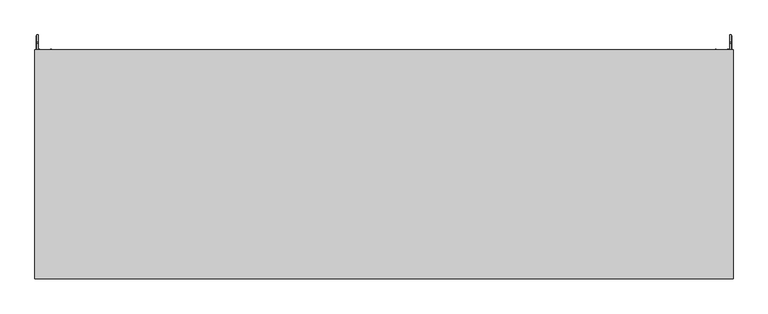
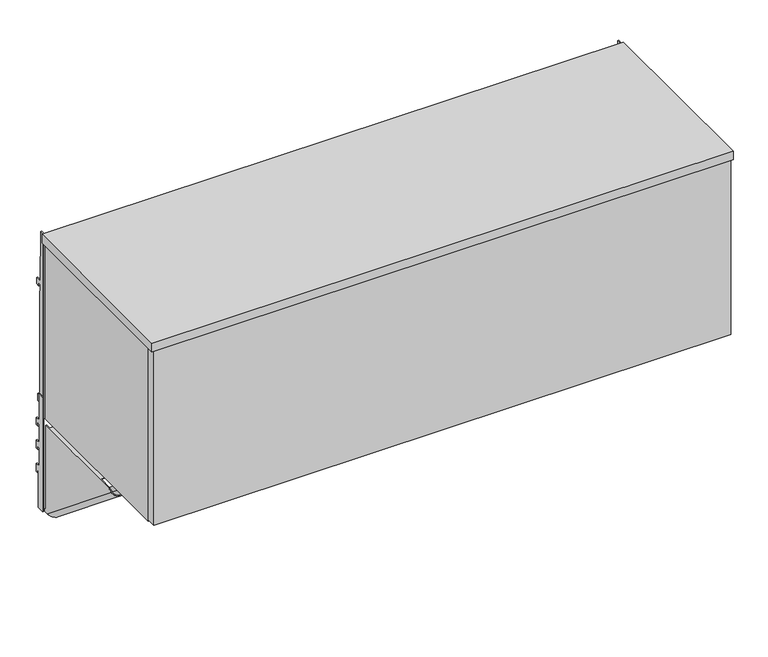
"""IFC4 building model written with IfcOpenShell, lengths in millimetres: furniture geometry, Steelcase - Universal Storage - In the Case Bin - Flat Front : For Montage - 48W."""

from ifc_helpers import new_model, si_unit, point, frame, frame_2d, origin, place, context, project, spatial, polyline, circle_curve, ellipse_curve, trimmed, segment, composite_curve, outline, extrude, faceted_brep, source, transform, mapped, element, save
from ifc_brep_helpers import plane_surface, cylinder_surface, revolved_surface, advanced_brep


def furniture_7c1b5382(model_context):
    return source(origin(), model_context, "Body", "SolidModel", [
        extrude(outline(polyline([(14.7026351, 1295.4127), (14.7026351, 1236.5862384), (24.9864881, 1236.5862384), (24.9864881, 1220.7113353), (18.8396885, 1220.7113353), (18.8396885, 1227.061311), (14.7756879, 1227.061311), (14.7756879, 1186.6498969), (24.9864881, 1186.6498969), (24.9864881, 1168.3872762), (18.8396885, 1168.3872762), (18.8396885, 1174.7373246), (14.7756879, 1174.7373246), (14.7756879, 1134.3259105), (24.9864881, 1134.3259105), (24.9864881, 1116.0632897), (21.4050888, 1116.0632897), (21.4050888, 1122.4132655), (17.3410881, 1122.4132655), (17.3410881, 1040.9809), (1.1327479, 1040.9809), (1.1327479, 1295.4127), (14.7026351, 1295.4127)])), frame((2.1844, 0.0, 0.0), z_axis=(1.0, 0.0, 0.0), x_axis=(0.0, 1.0, 0.0)), (0.0, 0.0, 1.0), 1.905),
        extrude(outline(polyline([(14.7026351, 1295.4127), (14.7026351, 1236.5862384), (24.9864881, 1236.5862384), (24.9864881, 1220.7113353), (18.8396885, 1220.7113353), (18.8396885, 1227.061311), (14.7756879, 1227.061311), (14.7756879, 1186.6498969), (24.9864881, 1186.6498969), (24.9864881, 1168.3872762), (18.8396885, 1168.3872762), (18.8396885, 1174.7373246), (14.7756879, 1174.7373246), (14.7756879, 1134.3259105), (24.9864881, 1134.3259105), (24.9864881, 1116.0632897), (21.4050888, 1116.0632897), (21.4050888, 1122.4132655), (17.3410881, 1122.4132655), (17.3410881, 1040.9809), (1.1327479, 1040.9809), (1.1327479, 1295.4127), (14.7026351, 1295.4127)])), frame((1215.1106, 0.0, 0.0), z_axis=(1.0, 0.0, 0.0), x_axis=(0.0, 1.0, 0.0)), (0.0, 0.0, 1.0), 1.905),
        advanced_brep(
        [(1190.1424, -230.0833372, 1233.8431), (1190.1424, 1.1327479, 1046.6079738), (1188.0342, 1.1327479, 1046.6079738), (1188.0342, -230.0833372, 1233.8431), (1188.0342, 1.1327479, 1040.9809), (1188.0342, -7.7654502, 1040.9809), (1188.0342, -240.6555763, 1229.5716381), (1211.3006, -7.7654502, 1040.9809), (1211.3006, -240.6555763, 1229.5716381), (1211.3006, 1.1327479, 1040.9809), (1211.3006, 1.1327479, 1046.6079738), (1211.3006, -3.080512, 1050.019805), (1211.3006, -3.080512, 1233.8431), (1211.3006, -230.0833372, 1233.8431), (1209.1924009, 1.1327479, 1046.6079738), (1209.1924009, -3.080512, 1050.019805), (1209.1924009, -7.7654502, 1040.9809), (1209.1924009, -240.6555763, 1229.5716381), (1209.1924009, -230.0833372, 1233.8431), (1209.1924009, -200.311512, 1233.8431), (1209.1924009, -200.311512, 1233.0049163), (1209.1924009, -14.0787123, 1233.0049163), (1209.1924009, -14.0787123, 1233.8431), (1209.1924009, -3.080512, 1233.8431), (1209.1924009, 1.1327479, 1040.9809), (1190.1424, -7.7654502, 1040.9809), (1190.1424, -240.6555763, 1229.5716381), (1190.1424, 1.1327479, 1040.9809), (1180.2617978, -200.311512, 1233.8431), (1180.2617978, -200.311512, 1252.2581016), (1179.4236, -200.311512, 1252.2581016), (1179.4236, -200.311512, 1233.0049163), (1179.4236, -82.5825138, 1252.2581016), (1180.2617978, -82.5825138, 1252.2581016), (1180.2617978, -82.5825138, 1233.8431), (1179.4236, -82.5825138, 1233.8431), (1179.4236, -14.0787123, 1233.8431), (1179.4236, -14.0787123, 1233.0049163)],
        [
            (0, 1),
            (1, 2),
            (2, 3),
            (3, 0),
            (2, 4),
            (4, 5),
            (5, 6),
            (6, 3),
            (5, 7, ellipse_curve(frame((1199.6674, -7.7654502, 1040.9809), z_axis=(0.0, 0.0, 1.0), x_axis=(0.0, -1.0, 0.0)), 18.4853359, 11.6332)),
            (7, 8),
            (8, 6, ellipse_curve(frame((1199.6674, -240.6555763, 1229.5716381), z_axis=(0.0, 0.374606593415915, -0.9271838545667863), x_axis=(0.0, -0.9271838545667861, -0.3746065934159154)), 13.3008659, 11.6332)),
            (7, 9),
            (9, 10),
            (10, 11),
            (11, 12),
            (12, 13),
            (13, 8),
            (10, 14),
            (14, 15),
            (15, 11),
            (16, 17),
            (17, 18),
            (18, 19),
            (19, 20),
            (20, 21),
            (21, 22),
            (22, 23),
            (23, 15),
            (14, 24),
            (24, 16),
            (16, 25, ellipse_curve(frame((1199.6674005, -7.7654502, 1040.9809), z_axis=(0.0, 0.0, -1.0), x_axis=(0.0, 1.0, 0.0)), 15.135374, 9.5250005)),
            (25, 26),
            (26, 17, ellipse_curve(frame((1199.6674005, -240.6555763, 1229.5716381), z_axis=(0.0, -0.374606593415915, 0.9271838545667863), x_axis=(0.0, 0.9271838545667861, 0.3746065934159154)), 10.8904475, 9.5250005)),
            (0, 26),
            (25, 27),
            (27, 1),
            (13, 18),
            (24, 9),
            (4, 27),
            (28, 29),
            (29, 30),
            (30, 31),
            (31, 20),
            (19, 28),
            (32, 33),
            (33, 34),
            (34, 35),
            (35, 32),
            (35, 36),
            (36, 37),
            (37, 31),
            (30, 32),
            (28, 34),
            (33, 29),
            (36, 22),
            (21, 37),
            (12, 23),
        ],
        [
            plane_surface(frame((1190.1424, -241.2702093, 1242.902052), z_axis=(0.0, 0.6293204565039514, 0.7771459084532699), x_axis=(0.0, 0.7771459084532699, -0.6293204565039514))),
            plane_surface(frame((1188.0342, -241.2702093, 1242.902052), z_axis=(-1.0, 0.0, 0.0), x_axis=(0.0, 0.7771459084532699, -0.6293204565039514))),
            cylinder_surface(frame((1199.6674, 5.728998, 1030.0533094), z_axis=(0.0, -0.7771459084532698, 0.6293204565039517), x_axis=(0.0, 0.6293204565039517, 0.7771459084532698)), 11.6332),
            plane_surface(frame((1211.3006, -247.5463438, 1235.1516726), z_axis=(1.0000000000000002, 0.0, 0.0), x_axis=(0.0, 0.7771459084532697, -0.6293204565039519))),
            plane_surface(frame((1211.3006, -241.2702093, 1242.902052), z_axis=(0.0, 0.6293204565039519, 0.7771459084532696), x_axis=(0.0, 0.7771459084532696, -0.6293204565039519))),
            plane_surface(frame((1209.1924009, -241.2702093, 1242.902052), z_axis=(-1.0, 0.0, 0.0), x_axis=(0.0, 0.7771459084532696, -0.6293204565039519))),
            revolved_surface(polyline([(1199.6674005, 7.3699238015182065, 1040.980900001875), (1199.6674005, -238.76446812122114, 1240.2966349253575)]), (1199.6674005, 5.728998, 1030.0533094), (0.0, 0.7771459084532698, -0.6293204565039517)),
            plane_surface(frame((1190.1424, -247.5463438, 1235.1516726), z_axis=(1.0000000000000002, 0.0, 0.0), x_axis=(0.0, 0.7771459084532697, -0.6293204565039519))),
            plane_surface(frame((1219.2, -257.2236519, 1222.8777011), z_axis=(0.0, -0.374606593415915, 0.9271838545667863), x_axis=(-1.0, 0.0, 0.0))),
            plane_surface(frame((1219.2, 1.1327479, 1040.9809), z_axis=(0.0, 0.0, -1.0), x_axis=(-1.0, 0.0, 0.0))),
            plane_surface(frame((1219.2, 1.1327479, 1053.6809), z_axis=(0.0, 1.0, 0.0), x_axis=(-1.0, 0.0, 0.0))),
            plane_surface(frame((1179.4236, -200.311512, 1252.2581016), z_axis=(0.0, -1.0, 0.0), x_axis=(0.0, 0.0, -1.0))),
            plane_surface(frame((1179.4236, -82.5825138, 1252.2581016), z_axis=(0.0, 1.0, 0.0), x_axis=(0.0, 0.0, 1.0))),
            plane_surface(frame((1179.4236, -200.311512, 1252.2581016), z_axis=(-1.0, 0.0, 0.0), x_axis=(0.0, 1.0, 0.0))),
            plane_surface(frame((1180.2617978, -200.311512, 1233.8431), z_axis=(1.0, 0.0, 0.0), x_axis=(0.0, 1.0, 0.0))),
            plane_surface(frame((1180.2617978, -200.311512, 1252.2581016), z_axis=(0.0, 0.0, 1.0), x_axis=(0.0, 1.0, 0.0))),
            plane_surface(frame((1179.4236, -14.0787123, 1233.8431), z_axis=(0.0, 1.0, 0.0), x_axis=(0.0, 0.0, 1.0))),
            plane_surface(frame((1179.4236, -200.311512, 1233.0049163), z_axis=(0.0, 0.0, -1.0), x_axis=(0.0, 1.0, 0.0))),
            plane_surface(frame((1211.3006, -200.311512, 1233.8431), z_axis=(0.0, 0.0, 1.0), x_axis=(0.0, 1.0, 0.0))),
            plane_surface(frame((1211.3006, -3.080512, 1050.019805), z_axis=(0.0, 1.0, 0.0), x_axis=(-1.0, 0.0, 0.0))),
        ],
        [
            (0, [[1, 2, 3, 4]]),
            (1, [[-3, 5, 6, 7, 8]]),
            (2, [[-7, 9, 10, 11]]),
            (3, [[-10, 12, 13, 14, 15, 16, 17]]),
            (4, [[18, 19, 20, -14]]),
            (5, [[21, 22, 23, 24, 25, 26, 27, 28, -19, 29, 30]]),
            (6, [[-21, 31, 32, 33]]),
            (7, [[-1, 34, -32, 35, 36]]),
            (8, [[-4, -8, -11, -17, 37, -22, -33, -34]]),
            (9, [[38, -12, -9, -6, 39, -35, -31, -30]]),
            (10, [[-38, -29, -18, -13]]),
            (10, [[-39, -5, -2, -36]]),
            (11, [[40, 41, 42, 43, -24, 44]]),
            (12, [[45, 46, 47, 48]]),
            (13, [[-48, 49, 50, 51, -42, 52]]),
            (14, [[-40, 53, -46, 54]]),
            (15, [[-41, -54, -45, -52]]),
            (16, [[-50, 55, -26, 56]]),
            (17, [[-51, -56, -25, -43]]),
            (18, [[57, -27, -55, -49, -47, -53, -44, -23, -37, -16]]),
            (19, [[-15, -20, -28, -57]]),
        ],
    ),
        advanced_brep(
        [(8.1026, -3.080512, 1050.019805), (8.1026, -3.080512, 1233.8431), (8.1026, -14.0787123, 1233.8431), (8.1026, -14.0787123, 1233.0049163), (8.1026, -200.311512, 1233.0049163), (8.1026, -200.311512, 1233.8431), (8.1026, -230.0833372, 1233.8431), (8.1026, -240.6555763, 1229.5716381), (8.1026, -7.7654502, 1040.9809), (8.1026, 1.1327479, 1040.9809), (8.1026, 1.1327479, 1046.6079738), (5.9944, -3.080512, 1233.8431), (5.9944, -3.080512, 1050.019805), (5.9944, 1.1327479, 1046.6079738), (5.9944, 1.1327479, 1040.9809), (5.9944, -7.7654502, 1040.9809), (5.9944, -240.6555763, 1229.5716381), (5.9944, -230.0833372, 1233.8431), (39.5732022, -200.311512, 1233.8431), (39.5732022, -82.5825138, 1233.8431), (40.4114, -82.5825138, 1233.8431), (40.4114, -14.0787123, 1233.8431), (29.2608, -7.7654502, 1040.9809), (29.2608, -240.6555763, 1229.5716381), (29.2608, 1.1327479, 1040.9809), (29.2608, 1.1327479, 1046.6079738), (29.2608, -230.0833372, 1233.8431), (27.1526009, 1.1327479, 1046.6079738), (27.1526009, -230.0833372, 1233.8431), (27.1526009, 1.1327479, 1040.9809), (27.1526009, -7.7654502, 1040.9809), (27.1526009, -240.6555763, 1229.5716381), (40.4114, -200.311512, 1233.0049163), (40.4114, -200.311512, 1252.2581016), (39.5732022, -200.311512, 1252.2581016), (40.4114, -14.0787123, 1233.0049163), (40.4114, -82.5825138, 1252.2581016), (39.5732022, -82.5825138, 1252.2581016)],
        [
            (0, 1),
            (1, 2),
            (2, 3),
            (3, 4),
            (4, 5),
            (5, 6),
            (6, 7),
            (7, 8),
            (8, 9),
            (9, 10),
            (10, 0),
            (11, 12),
            (12, 13),
            (13, 14),
            (14, 15),
            (15, 16),
            (16, 17),
            (17, 11),
            (17, 6),
            (5, 18),
            (18, 19),
            (19, 20),
            (20, 21),
            (21, 2),
            (1, 11),
            (0, 12),
            (10, 13),
            (15, 22, ellipse_curve(frame((17.6276, -7.7654502, 1040.9809), z_axis=(0.0, 0.0, 1.0), x_axis=(0.0, -1.0, 0.0)), 18.4853359, 11.6332)),
            (22, 23),
            (23, 16, ellipse_curve(frame((17.6276, -240.6555763, 1229.5716381), z_axis=(0.0, 0.374606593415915, -0.9271838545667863), x_axis=(0.0, -0.9271838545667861, -0.3746065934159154)), 13.3008659, 11.6332)),
            (22, 24),
            (24, 25),
            (25, 26),
            (26, 23),
            (25, 27),
            (27, 28),
            (28, 26),
            (27, 29),
            (29, 30),
            (30, 31),
            (31, 28),
            (7, 31, ellipse_curve(frame((17.6276005, -240.6555763, 1229.5716381), z_axis=(0.0, -0.374606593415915, 0.9271838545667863), x_axis=(0.0, 0.9271838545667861, 0.3746065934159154)), 10.8904475, 9.5250005)),
            (30, 8, ellipse_curve(frame((17.6276005, -7.7654502, 1040.9809), z_axis=(0.0, 0.0, -1.0), x_axis=(0.0, 1.0, 0.0)), 15.135374, 9.5250005)),
            (14, 9),
            (29, 24),
            (4, 32),
            (32, 33),
            (33, 34),
            (34, 18),
            (21, 35),
            (35, 3),
            (35, 32),
            (20, 36),
            (36, 33),
            (19, 37),
            (37, 36),
            (37, 34),
        ],
        [
            plane_surface(frame((8.1026, -230.0833372, 1233.8431), z_axis=(1.0, 0.0, 0.0), x_axis=(0.0, -1.0, 0.0))),
            plane_surface(frame((5.9944, -230.0833372, 1233.8431), z_axis=(-1.0, 0.0, 0.0), x_axis=(0.0, 1.0, 0.0))),
            plane_surface(frame((8.1026, -3.080512, 1233.8431), z_axis=(0.0, 0.0, 1.0), x_axis=(-1.0, 0.0, 0.0))),
            plane_surface(frame((8.1026, -3.080512, 1050.019805), z_axis=(0.0, 1.0, 0.0), x_axis=(-1.0, 0.0, 0.0))),
            plane_surface(frame((8.1026, -241.2702093, 1242.902052), z_axis=(0.0, 0.6293204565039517, 0.7771459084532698), x_axis=(0.0, 0.7771459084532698, -0.6293204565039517))),
            cylinder_surface(frame((17.6276, 5.728998, 1030.0533094), z_axis=(0.0, -0.7771459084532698, 0.6293204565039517), x_axis=(1.0, 0.0, 0.0)), 11.6332),
            plane_surface(frame((29.2608, -247.5463438, 1235.1516726), z_axis=(1.0000000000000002, 0.0, 0.0), x_axis=(0.0, 0.7771459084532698, -0.6293204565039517))),
            plane_surface(frame((29.2608, -241.2702093, 1242.902052), z_axis=(0.0, 0.6293204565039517, 0.7771459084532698), x_axis=(0.0, 0.7771459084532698, -0.6293204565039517))),
            plane_surface(frame((27.1526009, -241.2702093, 1242.902052), z_axis=(-1.0000000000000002, 0.0, 0.0), x_axis=(0.0, 0.7771459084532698, -0.6293204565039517))),
            revolved_surface(polyline([(27.152601, 1.375646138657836, 1033.5785848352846), (27.152601, -244.75874578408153, 1232.8943197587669)]), (17.6276005, 5.728998, 1030.0533094), (0.0, 0.7771459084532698, -0.6293204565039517)),
            plane_surface(frame((1219.2, -257.2236519, 1222.8777011), z_axis=(0.0, -0.374606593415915, 0.9271838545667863), x_axis=(-1.0, 0.0, 0.0))),
            plane_surface(frame((1219.2, 1.1327479, 1040.9809), z_axis=(0.0, 0.0, -1.0), x_axis=(-1.0, 0.0, 0.0))),
            plane_surface(frame((1219.2, 1.1327479, 1053.6809), z_axis=(0.0, 1.0, 0.0), x_axis=(-1.0, 0.0, 0.0))),
            plane_surface(frame((10.5986151, -200.311512, 1233.8431), z_axis=(0.0, -1.0, 0.0), x_axis=(-1.0, 0.0, 0.0))),
            plane_surface(frame((10.5986151, -14.0787123, 1233.8431), z_axis=(0.0, 1.0, 0.0), x_axis=(1.0, 0.0, 0.0))),
            plane_surface(frame((8.1026, -200.311512, 1233.0049163), z_axis=(0.0, 0.0, -1.0), x_axis=(0.0, 1.0, 0.0))),
            plane_surface(frame((40.4114, -200.311512, 1233.0049163), z_axis=(1.0, 0.0, 0.0), x_axis=(0.0, 1.0, 0.0))),
            plane_surface(frame((38.1509305, -82.5825138, 1252.2581016), z_axis=(0.0, 1.0, 0.0), x_axis=(1.0, 0.0, 0.0))),
            plane_surface(frame((40.4114, -200.311512, 1252.2581016), z_axis=(0.0, 0.0, 1.0), x_axis=(0.0, 1.0, 0.0))),
            plane_surface(frame((39.5732022, -200.311512, 1252.2581016), z_axis=(-1.0, 0.0, 0.0), x_axis=(0.0, 1.0, 0.0))),
        ],
        [
            (0, [[1, 2, 3, 4, 5, 6, 7, 8, 9, 10, 11]]),
            (1, [[12, 13, 14, 15, 16, 17, 18]]),
            (2, [[-18, 19, -6, 20, 21, 22, 23, 24, -2, 25]]),
            (3, [[-1, 26, -12, -25]]),
            (4, [[-26, -11, 27, -13]]),
            (5, [[-16, 28, 29, 30]]),
            (6, [[-29, 31, 32, 33, 34]]),
            (7, [[-33, 35, 36, 37]]),
            (8, [[-36, 38, 39, 40, 41]]),
            (9, [[-8, 42, -40, 43]]),
            (10, [[-7, -19, -17, -30, -34, -37, -41, -42]]),
            (11, [[44, -9, -43, -39, 45, -31, -28, -15]]),
            (12, [[-44, -14, -27, -10]]),
            (12, [[-45, -38, -35, -32]]),
            (13, [[46, 47, 48, 49, -20, -5]]),
            (14, [[50, 51, -3, -24]]),
            (15, [[-46, -4, -51, 52]]),
            (16, [[-47, -52, -50, -23, 53, 54]]),
            (17, [[-53, -22, 55, 56]]),
            (18, [[-48, -54, -56, 57]]),
            (19, [[-49, -57, -55, -21]]),
        ],
    ),
        faceted_brep([(1200.2516023, -9.7789998, 1640.3955), (1200.2516023, -9.7789998, 1652.2572326), (1200.2516023, -10.6172003, 1652.2572326), (1200.2516023, -10.6172003, 1639.557281), (1200.2516023, -0.8382, 1639.557281), (1200.2516023, -0.8382266, 1640.3955), (17.0434001, -9.7789998, 1640.3955), (17.0434001, -0.8382, 1640.3955), (17.0434001, -0.8382011, 1639.557281), (17.0434001, -10.6172003, 1639.557281), (17.0434001, -10.6172003, 1652.2572326), (17.0434001, -9.7789998, 1652.2572326), (1202.8837557, -30.9238769, 1640.3955), (1203.7187599, -30.850824, 1640.3955), (1201.0930117, -0.8382, 1640.3955), (1215.1106, -0.8382, 1640.3955), (1215.1106, 0.1784978, 1640.3955), (2.1844, 0.1784978, 1640.3955), (2.1844, -0.8382, 1640.3955), (16.2019988, -0.8382, 1640.3955), (13.5762335, -30.850824, 1640.3955), (14.4176356, -30.850824, 1640.3955), (1215.1106, 0.1784978, 1247.9655), (1215.1106, -0.8382, 1247.9655), (1201.0930117, -0.8382, 1247.9655), (1203.7187599, -30.850824, 1247.9655), (1202.8837557, -30.9238769, 1247.9655), (1200.2516, -0.8382, 1247.9655), (17.0434002, -0.8382, 1247.9655), (14.4176356, -30.850824, 1247.9655), (13.5762335, -30.850824, 1247.9655), (16.2019988, -0.8382, 1247.9655), (2.1844, -0.8382, 1247.9655), (2.1844, 0.1784978, 1247.9655)], [[[0, 1, 2, 3, 4, 5]], [[6, 7, 8, 9, 10, 11]], [[1, 0, 6, 11]], [[2, 1, 11, 10]], [[3, 2, 10, 9]], [[4, 3, 9, 8]], [[0, 5, 12, 13, 14, 15, 16, 17, 18, 19, 20, 21, 7, 6]], [[22, 23, 24, 25, 26, 27, 28, 29, 30, 31, 32, 33]], [[17, 16, 22, 33]], [[18, 17, 33, 32]], [[19, 18, 32, 31]], [[20, 19, 31, 30]], [[21, 20, 30, 29]], [[7, 21, 29, 28, 8]], [[28, 27, 4, 8]], [[12, 5, 4, 27, 26]], [[13, 12, 26, 25]], [[14, 13, 25, 24]], [[15, 14, 24, 23]], [[16, 15, 23, 22]]]),
        faceted_brep([(1183.7415999, -61.4680004, 1256.4236903), (1183.7415999, -61.4680004, 1248.8037), (1183.7415999, -60.6298021, 1248.8037), (1183.7415999, -60.6298021, 1256.4236903), (33.5534002, -61.4680004, 1256.4236903), (33.5534002, -60.6298021, 1256.4236903), (33.5534002, -60.6298021, 1248.8037), (33.5534002, -61.468, 1248.8037), (17.0434001, -61.4680004, 1248.8037), (17.0434001, -61.4680004, 1247.9655), (1200.2516023, -61.4680004, 1247.9655), (1200.2516023, -61.4680004, 1248.8037), (1200.2516023, -0.8382, 1247.9655), (1200.2516023, -0.8382, 1248.8037), (17.0434001, -0.8382, 1248.8037), (17.0434001, -0.8382, 1247.9655)], [[[0, 1, 2, 3]], [[4, 5, 6, 7]], [[1, 0, 4, 7, 8, 9, 10, 11]], [[3, 2, 6, 5]], [[0, 3, 5, 4]], [[11, 10, 12, 13]], [[8, 14, 15, 9]], [[12, 10, 9, 15]], [[13, 12, 15, 14]], [[11, 13, 14, 8, 7, 6, 2, 1]]]),
        extrude(outline(composite_curve([segment(polyline([(-343.4401318, 1291.8437595), (-377.213238, 1291.8437595), (-377.213238, 1639.09375), (-30.850824, 1639.09375), (-30.850824, 1638.0577444), (-372.9486617, 1638.0577444)]), True, "CONTINUOUS"), segment(trimmed(circle_curve(frame_2d((-372.9486617, 1635.1839261)), 2.8738183), [point((-372.9486617, 1638.0577444))], [point((-375.82248, 1635.1839261))], True, "CARTESIAN"), True, "CONTINUOUS"), segment(polyline([(-375.82248, 1635.1839261), (-375.82248, 1292.9867129), (-343.4401318, 1292.9867129), (-343.4401318, 1291.8437595)]), True, "CONTINUOUS")], self_intersect=False)), frame((601.3266311, 0.0, 0.0), z_axis=(1.0, 0.0, 0.0), x_axis=(0.0, 1.0, 0.0)), (0.0, 0.0, 1.0), 16.5467378),
        extrude(outline(polyline([(1219.2, -399.4977324), (0.0, -399.4977324), (0.0, 0.0), (1219.2, 0.0), (1219.2, -399.4977324)])), frame((0.0, 0.0, 1639.490625), z_axis=(0.0, 0.0, 1.0), x_axis=(1.0, 0.0, 0.0)), (0.0, 0.0, 1.0), 19.05),
        extrude(outline(polyline([(4.4448587, -378.8585852), (1214.7703, -378.8585852), (1214.7703, -399.0261526), (4.4448587, -399.0261526), (4.4448587, -378.8585852)])), frame((0.0, 0.0, 1253.2134107), z_axis=(0.0, 0.0, 1.0), x_axis=(1.0, 0.0, 0.0)), (0.0, 0.0, 1.0), 386.3690475),
        extrude(outline(polyline([(0.0, 1657.096), (10.1677703, 1657.096), (13.3857995, 1545.8185744), (26.0095997, 1545.8185744), (26.0095997, 1532.1025512), (17.5768, 1532.1025512), (17.5768, 1537.1064608), (13.3349998, 1537.1064608), (13.3349998, 1522.6538546), (14.2747998, 1522.6538546), (14.2747998, 1296.0858527), (17.2466001, 1296.0858527), (17.2466001, 1289.7358043), (22.5806007, 1289.7358043), (22.5806007, 1274.2164027), (0.0, 1274.2164027), (0.0, 1657.096)])), frame((1213.6882, 0.0, 0.0), z_axis=(1.0, 0.0, 0.0), x_axis=(0.0, 1.0, 0.0)), (0.0, 0.0, 1.0), 1.905),
        extrude(outline(polyline([(15.875, -377.213238), (5.5118, -377.213238), (5.5118, 0.0), (15.875, 0.0), (15.875, -377.213238)])), frame((0.0, 0.0, 1247.9655), z_axis=(0.0, 0.0, 1.0), x_axis=(1.0, 0.0, 0.0)), (0.0, 0.0, 1.0), 391.2710707),
        extrude(outline(polyline([(1218.0568665, -377.213238), (1203.325, -377.213238), (1203.325, 0.0), (1218.0568665, 0.0), (1218.0568665, -377.213238)])), frame((0.0, 0.0, 1247.9655), z_axis=(0.0, 0.0, 1.0), x_axis=(1.0, 0.0, 0.0)), (0.0, 0.0, 1.0), 391.2710707),
        extrude(outline(polyline([(0.0, 1657.096), (10.1677703, 1657.096), (13.3857995, 1545.8185744), (26.0095997, 1545.8185744), (26.0095997, 1532.1025512), (17.5768, 1532.1025512), (17.5768, 1537.1064608), (13.3349998, 1537.1064608), (13.3349998, 1522.6538546), (14.2747998, 1522.6538546), (14.2747998, 1296.0858527), (17.2466001, 1296.0858527), (17.2466001, 1289.7358043), (22.5806007, 1289.7358043), (22.5806007, 1274.2164027), (0.0, 1274.2164027), (0.0, 1657.096)])), frame((3.6068, 0.0, 0.0), z_axis=(1.0, 0.0, 0.0), x_axis=(0.0, 1.0, 0.0)), (0.0, 0.0, 1.0), 1.905),
        extrude(outline(polyline([(-35.4584098, 1372.819257), (-27.0763996, 1372.819257), (-27.0763996, 1360.1191601), (-33.4264117, 1360.1191601), (-33.4264117, 1323.1622589), (-27.0763996, 1323.1622589), (-27.0763996, 1265.428), (-35.4584098, 1265.428), (-35.4584098, 1293.054213), (-46.1263996, 1293.054213), (-46.1263996, 1268.1875622), (-59.9694137, 1268.1875622), (-59.9694137, 1294.8575912), (-332.8542818, 1294.8575912), (-332.8542818, 1268.1875622), (-377.3042823, 1268.1875622), (-377.3042823, 1310.7072052), (-35.4584098, 1310.7072052), (-35.4584098, 1372.819257)])), frame((15.875, 0.0, 0.0), z_axis=(1.0, 0.0, 0.0), x_axis=(0.0, 1.0, 0.0)), (0.0, 0.0, 1.0), 1187.45),
    ])


if __name__ == "__main__":
    model = new_model("IFC4")
    model_context = context("Model", 3, world=origin())
    ifc_project = project(units=[si_unit("LENGTHUNIT", "METRE", prefix="MILLI")], contexts=[model_context])
    site = spatial("IfcSite", under=ifc_project)
    building = spatial("IfcBuilding", under=site)
    placement = place(None, origin())
    furniture_shape = furniture_7c1b5382(model_context)
    element("IfcFurniture", 1, ObjectType="Steelcase - Universal Storage - In the Case Bin - Flat Front : For Montage - 48W", at=placement, inside=building, context=model_context, shape_type="MappedRepresentation", body=[
        mapped(furniture_shape, transform((0.0, 0.0, 0.0), x_axis=(1.0, 0.0, 0.0), y_axis=(0.0, 1.0, 0.0), z_axis=(0.0, 0.0, 1.0))),
    ])
    save(model, "model.ifc")
